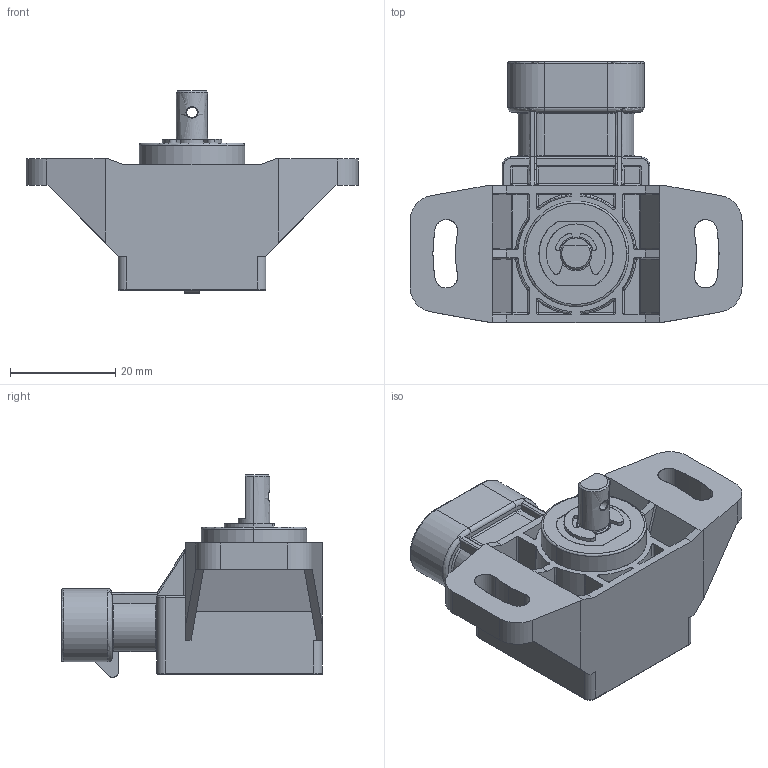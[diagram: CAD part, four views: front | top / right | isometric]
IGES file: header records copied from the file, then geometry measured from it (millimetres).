
Start section: SolidWorks IGES file using analytic representation for surfaces
Global section: file name: \\srv4gefran\dir-cat\Disegni Catalogo\Mobile\GR3P\GR3P 50\3D\Solidworks 2024\GR3PA S5E1LS xxx xxxx X0.IGS; native system: SolidWorks 2024; preprocessor: SolidWorks 2024; author: Loda-w1; date: 241219.161952; units: millimetre
Bounding box: 63 x 49.5 x 38.47 mm (x, y, z)
Surface area: 12804.1 mm2 (no closed solid volume)
Topology: 0 solids, 0 shells, 533 faces, 4656 edges, 4616 vertices
Faces by surface type: bspline 292, revolution 241
